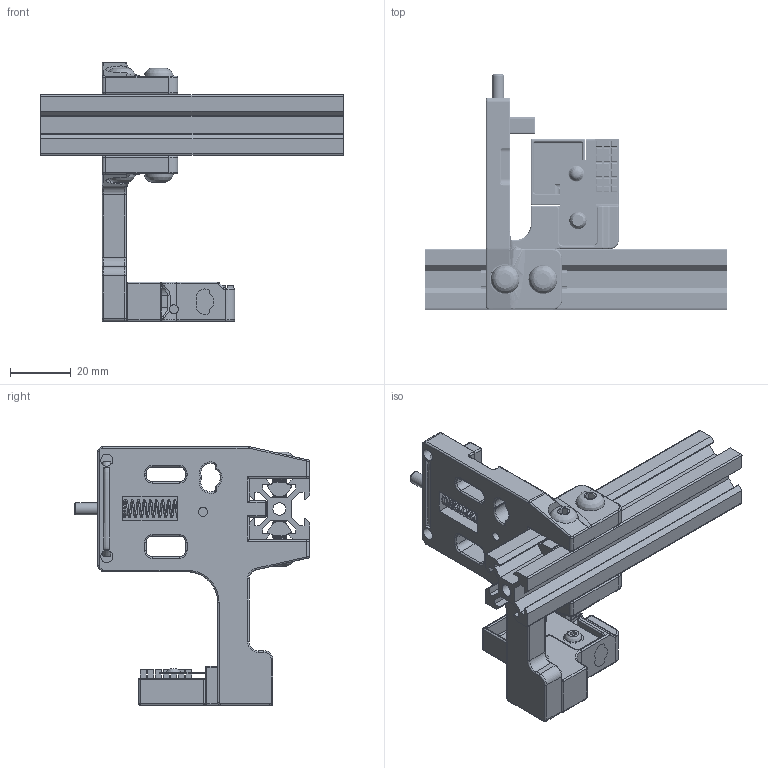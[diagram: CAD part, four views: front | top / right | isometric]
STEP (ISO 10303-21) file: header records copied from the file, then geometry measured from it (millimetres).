
FILE_DESCRIPTION(/* description */ (''),/* implementation_level */ '2;1');
FILE_NAME(/* name */ 'Lineux Stealth r2t Dock v10.step',/* time_stamp */ '2026-02-24T02:06:18+07:00',/* author */ (''),/* organization */ (''),/* preprocessor_version */ 'ST-DEVELOPER v20.1',/* originating_system */ 'Autodesk Translation Framework v14.24.0.0',/* authorisation */ '');
FILE_SCHEMA (('AUTOMOTIVE_DESIGN { 1 0 10303 214 3 1 1 }'));
Products named in the file (38): Lineux Stealth r2t Dock; r2t Dock; r2t Dock (1); Hardware (3); m3 x 6mm bhcs (1) (3); 2020 Drop-in T-nut, M5; 2020 Drop-in T-nut, M5_1; m5 x 12mm bhcs (3) (3); m5 x 12mm bhcs (2) (3); m5 x 12mm bhcs (1) (3); m5 x 12mm bhcs (6); spring OD6 ID5 20mm (1) (5); m3 x OD4 16mm threaded dowel pin (1) (5); m3 heat insert (1) (3); 6 x 3mm n52 magnet (1) (3); 8 x 5mm n52 magnet (2) (4); 8 x 5mm n52 magnet (3) (3); 2020 Drop-in T-nut, M5_2; 2020 Drop-in T-nut, M5_3; wire; r2t_dock (1); Nozzle Blocker (5); Drip Tray; 6x3mm magnet (2); 6x3mm magnet (3); [a]_drip_tray; Nozzle Blocker; Bambulab A1 Brush; nozzle_blocker_mount; 6x3mm magnet; m3 washer; AA battery terminal; m3 x 10mm bhcs; m3 hex nut; 6x3mm magnet (1); m3 x 10mm bhcs (1); [a]_logo_nb; 2020 Extrusion (5)
Assembly tree (37 placements, depth 5):
  Lineux Stealth r2t Dock
    r2t Dock
      r2t Dock (1)
        Hardware (3)
          m3 x 6mm bhcs (1) (3)
          2020 Drop-in T-nut, M5
          2020 Drop-in T-nut, M5_1
          m5 x 12mm bhcs (3) (3)
          m5 x 12mm bhcs (2) (3)
          m5 x 12mm bhcs (1) (3)
          m5 x 12mm bhcs (6)
          spring OD6 ID5 20mm (1) (5)
          m3 x OD4 16mm threaded dowel pin (1) (5)
          m3 heat insert (1) (3)
          6 x 3mm n52 magnet (1) (3)
          8 x 5mm n52 magnet (2) (4)
          8 x 5mm n52 magnet (3) (3)
          2020 Drop-in T-nut, M5_2
          2020 Drop-in T-nut, M5_3
          wire
        r2t_dock (1)
      Nozzle Blocker (5)
        Drip Tray
          6x3mm magnet (2)
          6x3mm magnet (3)
          [a]_drip_tray
        Nozzle Blocker
          Bambulab A1 Brush
          nozzle_blocker_mount
          6x3mm magnet
          m3 washer
          AA battery terminal
          m3 x 10mm bhcs
          m3 hex nut
          6x3mm magnet (1)
          m3 x 10mm bhcs (1)
          [a]_logo_nb
      2020 Extrusion (5)
Bounding box: 100 x 77.7 x 85.52 mm (x, y, z)
Volume: 55752.4 mm3; surface area: 43487 mm2
Topology: 35 solids, 35 shells, 1657 faces, 4313 edges, 2724 vertices
Faces by surface type: cylinder 762, plane 540, bspline 218, torus 67, sphere 42, cone 28
Full cylindrical faces by diameter (mm): 2.356 x52, 2.5 x5, 2.529 x11, 2.729 x1, 2.927 x49, 3 x8, 3.086 x5, 3.4 x2, 3.99 x16, 4 x3, 4.145 x2, 4.2 x2, 4.7 x1, 4.901 x36, 5.12 x12, 5.5 x4, 5.7 x3, 6 x5, 6.1 x1, 6.7 x1, 7 x1, 8 x2, 10 x2
Entity records: 108623 total; most frequent: CARTESIAN_POINT 69385, ORIENTED_EDGE 8558, DIRECTION 7107, EDGE_CURVE 4279, VERTEX_POINT 2723, AXIS2_PLACEMENT_3D 2592, LINE 1923, VECTOR 1923
